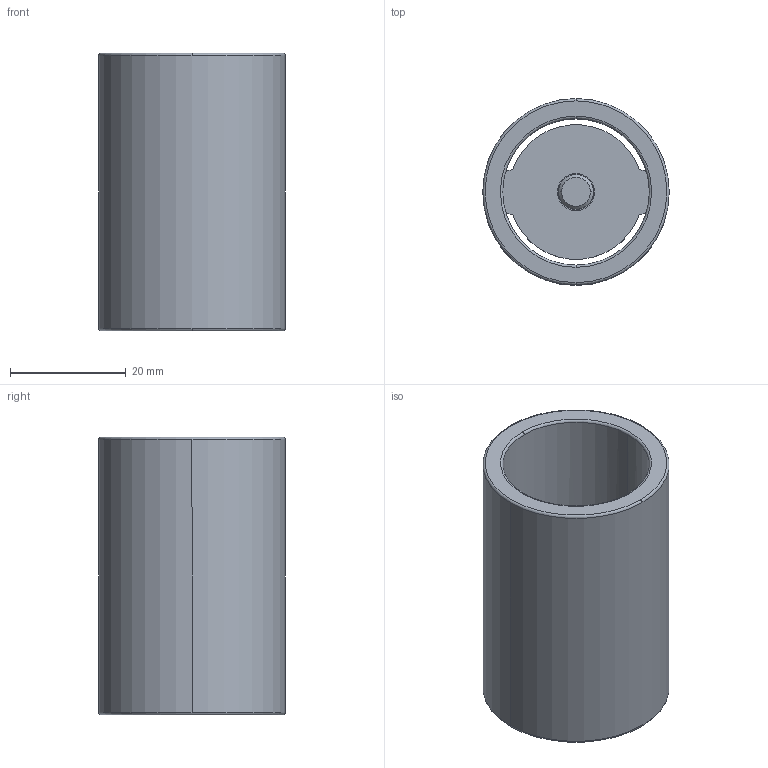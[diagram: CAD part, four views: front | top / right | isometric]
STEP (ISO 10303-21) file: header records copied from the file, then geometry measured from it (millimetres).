
FILE_DESCRIPTION((''),'2;1');
FILE_NAME('C11_025_048.stp','2009-01-12T09:16:07',(''),(''),'Mechanical Desktop 2009','Mechanical Desktop 2009',', , ');
FILE_SCHEMA(('CONFIG_CONTROL_DESIGN'));
Length unit declared in the file: millimetre
Products named in the file (2): Product; blmdl1
Assembly tree (1 placements, depth 2):
  Product
    blmdl1
Bounding box: 32.25 x 32.25 x 48 mm (x, y, z)
Volume: 16368.7 mm3; surface area: 11095.7 mm2
Topology: 3 solids, 3 shells, 44 faces, 110 edges, 74 vertices
Faces by surface type: cylinder 16, plane 16, torus 10, cone 2
Entity records: 1507 total; most frequent: CARTESIAN_POINT 274, DIRECTION 266, ORIENTED_EDGE 220, AXIS2_PLACEMENT_3D 114, EDGE_CURVE 110, VERTEX_POINT 74, CIRCLE 68, EDGE_LOOP 50
